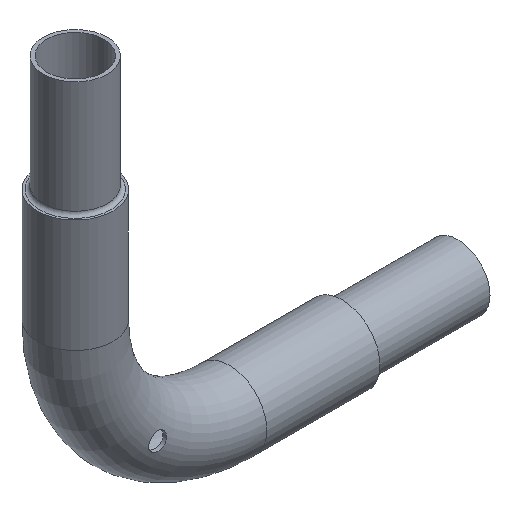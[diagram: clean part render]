
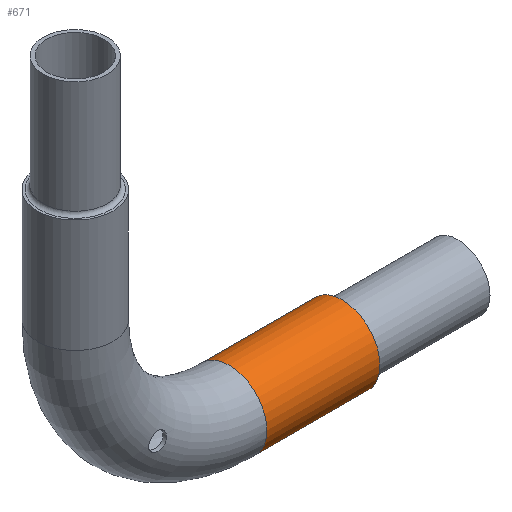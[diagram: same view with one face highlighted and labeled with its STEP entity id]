
A CAD part, isometric view. The second image highlights one B-rep face of the part: STEP entity #671.
In plain terms, the highlighted cylindrical face has radius 21.2 mm (diameter 42.4 mm), a full revolution.
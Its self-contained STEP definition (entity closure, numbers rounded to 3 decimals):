
#545=CARTESIAN_POINT('',(150.0,0.,-128.8));
#546=VERTEX_POINT('',#545);
#547=CARTESIAN_POINT('',(150.0,0.0,-150.0));
#548=DIRECTION('',(-1.0,0.0,0.0));
#549=DIRECTION('',(0.0,0.0,-1.0));
#550=AXIS2_PLACEMENT_3D('',#547,#548,#549);
#551=CIRCLE('',#550,21.2);
#552=EDGE_CURVE('',#546,#546,#551,.T.);
#652=CARTESIAN_POINT('',(86.5,0.0,-150.0));
#653=DIRECTION('',(1.0,0.0,0.0));
#654=DIRECTION('',(0.0,0.0,-1.0));
#655=AXIS2_PLACEMENT_3D('',#652,#653,#654);
#656=CYLINDRICAL_SURFACE('',#655,21.2);
#657=ORIENTED_EDGE('',*,*,#552,.T.);
#658=EDGE_LOOP('',(#657));
#659=FACE_OUTER_BOUND('',#658,.T.);
#660=CARTESIAN_POINT('',(86.5,0.,-128.8));
#661=VERTEX_POINT('',#660);
#662=CARTESIAN_POINT('',(86.5,0.0,-150.0));
#663=DIRECTION('',(-1.0,0.0,0.0));
#664=DIRECTION('',(0.0,0.0,-1.0));
#665=AXIS2_PLACEMENT_3D('',#662,#663,#664);
#666=CIRCLE('',#665,21.2);
#667=EDGE_CURVE('',#661,#661,#666,.T.);
#668=ORIENTED_EDGE('',*,*,#667,.F.);
#669=EDGE_LOOP('',(#668));
#670=FACE_BOUND('',#669,.T.);
#671=ADVANCED_FACE('',(#659,#670),#656,.T.);
